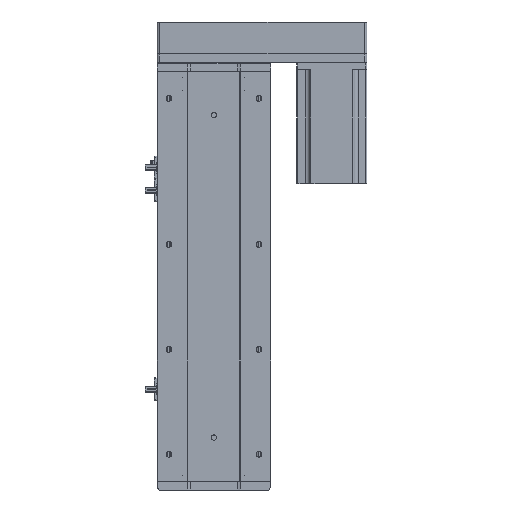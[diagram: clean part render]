
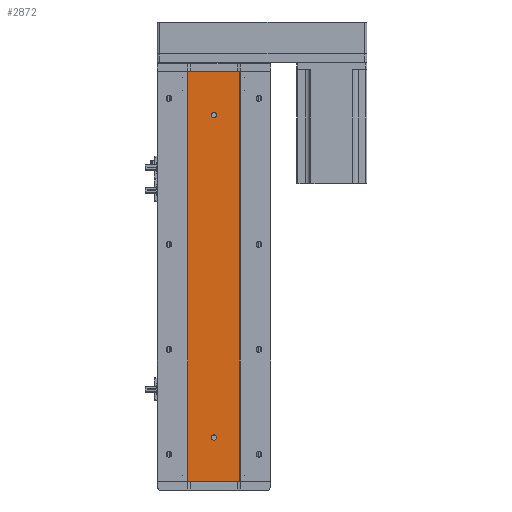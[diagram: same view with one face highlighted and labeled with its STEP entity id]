
A CAD part, left-side view. The second image highlights one B-rep face of the part: STEP entity #2872.
In plain terms, the highlighted planar face has unit normal (-1, 0, 0).
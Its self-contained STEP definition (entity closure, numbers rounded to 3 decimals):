
#175 = LINE ( 'NONE', #20520, #15351 ) ;
#342 = FACE_OUTER_BOUND ( 'NONE', #27928, .T. ) ;
#572 = VERTEX_POINT ( 'NONE', #13408 ) ;
#693 = CARTESIAN_POINT ( 'NONE',  ( -24.994, 0., 50. ) ) ;
#1133 = EDGE_CURVE ( 'NONE', #11911, #19279, #31843, .T. ) ;
#1160 = CARTESIAN_POINT ( 'NONE',  ( -24.994, 0., 419. ) ) ;
#1317 = CIRCLE ( 'NONE', #21566, 3. ) ;
#2224 = CARTESIAN_POINT ( 'NONE',  ( -24.994, 0., 53. ) ) ;
#2872 = ADVANCED_FACE ( 'NONE', ( #10706, #8368, #342 ), #37369, .F. ) ;
#3496 = VECTOR ( 'NONE', #28753, 1000. ) ;
#3745 = DIRECTION ( 'NONE',  ( 0., 0., 1. ) ) ;
#4200 = DIRECTION ( 'NONE',  ( 0., 0., 1. ) ) ;
#4493 = CARTESIAN_POINT ( 'NONE',  ( -24.994, 29.785, 0. ) ) ;
#4563 = CIRCLE ( 'NONE', #12851, 3. ) ;
#5055 = VERTEX_POINT ( 'NONE', #2224 ) ;
#5511 = ORIENTED_EDGE ( 'NONE', *, *, #16638, .F. ) ;
#5623 = DIRECTION ( 'NONE',  ( -1., 0., 0. ) ) ;
#6573 = DIRECTION ( 'NONE',  ( -1., 0., 0. ) ) ;
#7379 = VECTOR ( 'NONE', #35501, 1000. ) ;
#7760 = VERTEX_POINT ( 'NONE', #38866 ) ;
#8130 = EDGE_CURVE ( 'NONE', #38779, #7760, #19633, .T. ) ;
#8368 = FACE_BOUND ( 'NONE', #24556, .T. ) ;
#10179 = VECTOR ( 'NONE', #31837, 1000. ) ;
#10706 = FACE_BOUND ( 'NONE', #15798, .T. ) ;
#11911 = VERTEX_POINT ( 'NONE', #31800 ) ;
#12053 = EDGE_CURVE ( 'NONE', #38779, #14597, #175, .T. ) ;
#12851 = AXIS2_PLACEMENT_3D ( 'NONE', #693, #21933, #3745 ) ;
#13408 = CARTESIAN_POINT ( 'NONE',  ( -24.994, -29.785, 0. ) ) ;
#13610 = CARTESIAN_POINT ( 'NONE',  ( -24.994, 29.785, 469. ) ) ;
#14279 = CARTESIAN_POINT ( 'NONE',  ( -24.994, -29.785, 469. ) ) ;
#14597 = VERTEX_POINT ( 'NONE', #16749 ) ;
#15351 = VECTOR ( 'NONE', #23543, 1000. ) ;
#15798 = EDGE_LOOP ( 'NONE', ( #30897, #28231 ) ) ;
#16239 = DIRECTION ( 'NONE',  ( 1., 0., 0. ) ) ;
#16638 = EDGE_CURVE ( 'NONE', #32054, #5055, #1317, .T. ) ;
#16749 = CARTESIAN_POINT ( 'NONE',  ( -24.994, 29.785, 0. ) ) ;
#17352 = LINE ( 'NONE', #14279, #7379 ) ;
#18243 = LINE ( 'NONE', #4493, #10179 ) ;
#19279 = VERTEX_POINT ( 'NONE', #34057 ) ;
#19633 = LINE ( 'NONE', #13610, #3496 ) ;
#19951 = ORIENTED_EDGE ( 'NONE', *, *, #26381, .F. ) ;
#20520 = CARTESIAN_POINT ( 'NONE',  ( -24.994, 29.785, 469. ) ) ;
#21565 = EDGE_CURVE ( 'NONE', #19279, #11911, #23949, .T. ) ;
#21566 = AXIS2_PLACEMENT_3D ( 'NONE', #23799, #5623, #26845 ) ;
#21933 = DIRECTION ( 'NONE',  ( -1., 0., 0. ) ) ;
#22227 = ORIENTED_EDGE ( 'NONE', *, *, #38508, .T. ) ;
#22380 = DIRECTION ( 'NONE',  ( -1., 0., 0. ) ) ;
#22514 = AXIS2_PLACEMENT_3D ( 'NONE', #24762, #6573, #27814 ) ;
#22603 = ORIENTED_EDGE ( 'NONE', *, *, #37440, .F. ) ;
#23543 = DIRECTION ( 'NONE',  ( 0., 0., -1. ) ) ;
#23799 = CARTESIAN_POINT ( 'NONE',  ( -24.994, 0., 50. ) ) ;
#23949 = CIRCLE ( 'NONE', #22514, 3. ) ;
#24556 = EDGE_LOOP ( 'NONE', ( #19951, #5511 ) ) ;
#24762 = CARTESIAN_POINT ( 'NONE',  ( -24.994, 0., 419. ) ) ;
#26381 = EDGE_CURVE ( 'NONE', #5055, #32054, #4563, .T. ) ;
#26845 = DIRECTION ( 'NONE',  ( 0., 0., 1. ) ) ;
#27814 = DIRECTION ( 'NONE',  ( 0., 0., 1. ) ) ;
#27928 = EDGE_LOOP ( 'NONE', ( #22227, #22603, #36860, #31334 ) ) ;
#28231 = ORIENTED_EDGE ( 'NONE', *, *, #1133, .F. ) ;
#28367 = AXIS2_PLACEMENT_3D ( 'NONE', #34395, #16239, #37508 ) ;
#28753 = DIRECTION ( 'NONE',  ( 0., -1., 0. ) ) ;
#30897 = ORIENTED_EDGE ( 'NONE', *, *, #21565, .F. ) ;
#31334 = ORIENTED_EDGE ( 'NONE', *, *, #12053, .T. ) ;
#31800 = CARTESIAN_POINT ( 'NONE',  ( -24.994, 0., 416. ) ) ;
#31824 = AXIS2_PLACEMENT_3D ( 'NONE', #1160, #22380, #4200 ) ;
#31837 = DIRECTION ( 'NONE',  ( 0., -1., 0. ) ) ;
#31843 = CIRCLE ( 'NONE', #31824, 3. ) ;
#32054 = VERTEX_POINT ( 'NONE', #32723 ) ;
#32723 = CARTESIAN_POINT ( 'NONE',  ( -24.994, 0., 47. ) ) ;
#34057 = CARTESIAN_POINT ( 'NONE',  ( -24.994, 0., 422. ) ) ;
#34395 = CARTESIAN_POINT ( 'NONE',  ( -24.994, 29.785, 469. ) ) ;
#35501 = DIRECTION ( 'NONE',  ( 0., 0., -1. ) ) ;
#36340 = CARTESIAN_POINT ( 'NONE',  ( -24.994, 29.785, 469. ) ) ;
#36860 = ORIENTED_EDGE ( 'NONE', *, *, #8130, .F. ) ;
#37369 = PLANE ( 'NONE',  #28367 ) ;
#37440 = EDGE_CURVE ( 'NONE', #7760, #572, #17352, .T. ) ;
#37508 = DIRECTION ( 'NONE',  ( 0., 0., -1. ) ) ;
#38508 = EDGE_CURVE ( 'NONE', #14597, #572, #18243, .T. ) ;
#38779 = VERTEX_POINT ( 'NONE', #36340 ) ;
#38866 = CARTESIAN_POINT ( 'NONE',  ( -24.994, -29.785, 469. ) ) ;
